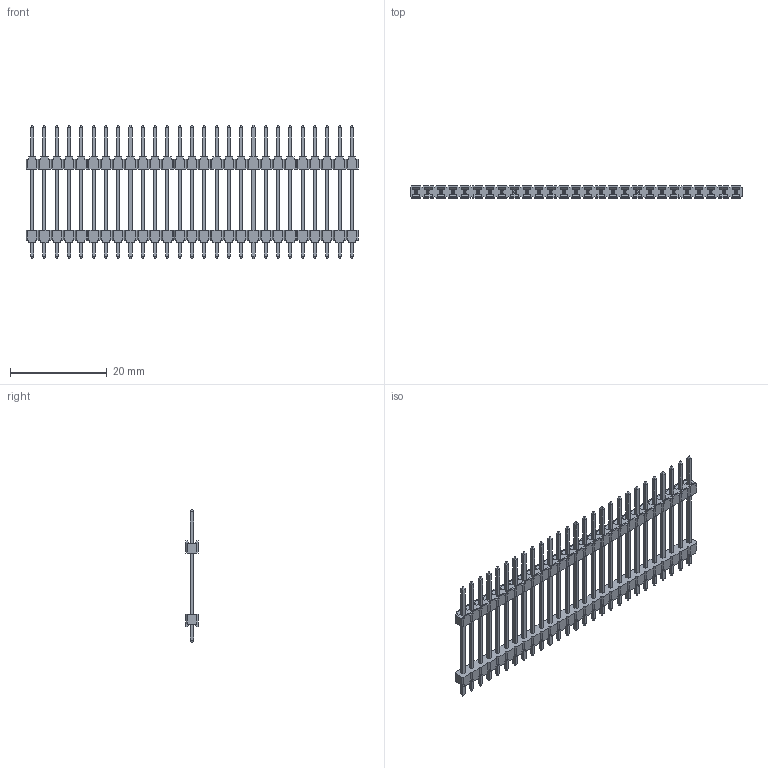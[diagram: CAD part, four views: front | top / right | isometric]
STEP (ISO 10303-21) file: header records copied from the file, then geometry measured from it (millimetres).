
FILE_DESCRIPTION(/* description */ (''),/* implementation_level */ '2;1');
FILE_NAME(/* name */ '961427-9040804-XX',/* time_stamp */ '2007-06-14T18:06:00+02:00',/* author */ (''),/* organization */ (''),/* preprocessor_version */ 'ST-DEVELOPER v9',/* originating_system */ 'UGS - NX 3.0',/* authorisation */ '');
FILE_SCHEMA (('AUTOMOTIVE_DESIGN { 1 0 10303 214 1 1 1 1 }'));
Length unit declared in the file: millimetre
Products named in the file (1): 961427-9040804-XX
Bounding box: 68.58 x 2.5 x 27.5 mm (x, y, z)
Volume: 956.5 mm3; surface area: 3003.9 mm2
Topology: 1 solids, 1 shells, 1470 faces, 4020 edges, 2608 vertices
Faces by surface type: plane 1470
Entity records: 45364 total; most frequent: CARTESIAN_POINT 8099, ORIENTED_EDGE 8040, DIRECTION 6962, EDGE_CURVE 4020, LINE 4020, VECTOR 4020, VERTEX_POINT 2608, EDGE_LOOP 1578
